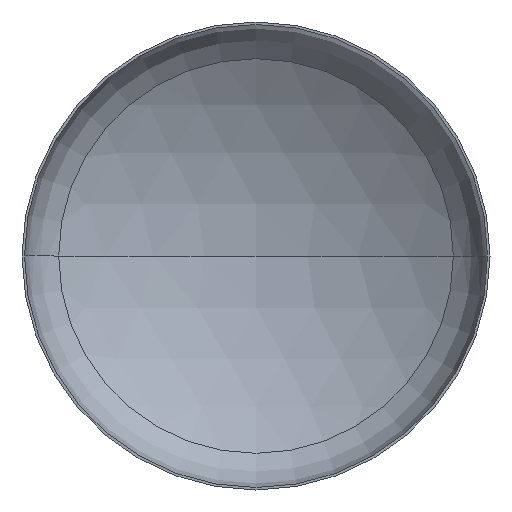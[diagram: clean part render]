
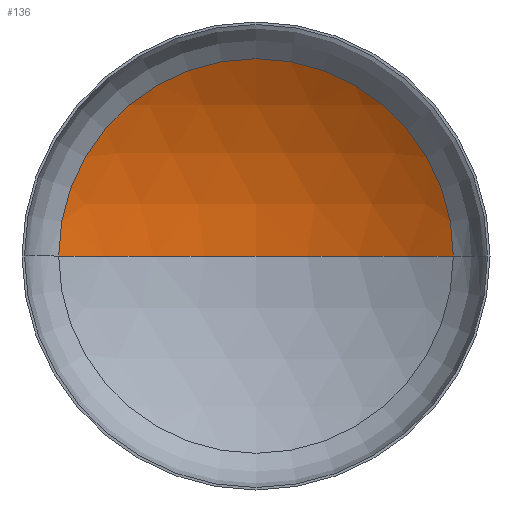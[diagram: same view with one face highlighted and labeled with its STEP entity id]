
A CAD part, front view. The second image highlights one B-rep face of the part: STEP entity #136.
In plain terms, the highlighted spherical face has radius 3600 mm.
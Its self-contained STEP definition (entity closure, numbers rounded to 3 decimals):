
#9 = ORIENTED_EDGE ( 'NONE', *, *, #362, .T. ) ;
#20 = AXIS2_PLACEMENT_3D ( 'NONE', #50, #46, #40 ) ;
#31 = AXIS2_PLACEMENT_3D ( 'NONE', #292, #106, #63 ) ;
#40 = DIRECTION ( 'NONE',  ( -1., 0., 0. ) ) ;
#46 = DIRECTION ( 'NONE',  ( 0., 0., -1. ) ) ;
#50 = CARTESIAN_POINT ( 'NONE',  ( 0., -2393.818, 0. ) ) ;
#52 = EDGE_LOOP ( 'NONE', ( #92, #9, #87 ) ) ;
#63 = DIRECTION ( 'NONE',  ( 1., 0., 0. ) ) ;
#71 = AXIS2_PLACEMENT_3D ( 'NONE', #303, #296, #218 ) ;
#83 = DIRECTION ( 'NONE',  ( 0., 0., 1. ) ) ;
#86 = CIRCLE ( 'NONE', #31, 1897.281 ) ;
#87 = ORIENTED_EDGE ( 'NONE', *, *, #357, .T. ) ;
#92 = ORIENTED_EDGE ( 'NONE', *, *, #399, .F. ) ;
#103 = DIRECTION ( 'NONE',  ( 1., 0., 0. ) ) ;
#106 = DIRECTION ( 'NONE',  ( 0., -1., 0. ) ) ;
#136 = ADVANCED_FACE ( 'NONE', ( #411 ), #366, .F. ) ;
#164 = VERTEX_POINT ( 'NONE', #240 ) ;
#165 = VERTEX_POINT ( 'NONE', #236 ) ;
#192 = CARTESIAN_POINT ( 'NONE',  ( 0., -2393.818, 0. ) ) ;
#197 = VERTEX_POINT ( 'NONE', #209 ) ;
#209 = CARTESIAN_POINT ( 'NONE',  ( 1897.281, 665.647, 0. ) ) ;
#218 = DIRECTION ( 'NONE',  ( -1., 0., 0. ) ) ;
#236 = CARTESIAN_POINT ( 'NONE',  ( 0., 1206.182, 0. ) ) ;
#240 = CARTESIAN_POINT ( 'NONE',  ( -1897.281, 665.647, 0. ) ) ;
#292 = CARTESIAN_POINT ( 'NONE',  ( 0., 665.647, 0. ) ) ;
#296 = DIRECTION ( 'NONE',  ( 0., 0., -1. ) ) ;
#297 = AXIS2_PLACEMENT_3D ( 'NONE', #192, #83, #103 ) ;
#303 = CARTESIAN_POINT ( 'NONE',  ( 0., -2393.818, 0. ) ) ;
#314 = CIRCLE ( 'NONE', #297, 3600. ) ;
#332 = CIRCLE ( 'NONE', #20, 3600. ) ;
#357 = EDGE_CURVE ( 'NONE', #197, #164, #86, .T. ) ;
#362 = EDGE_CURVE ( 'NONE', #165, #197, #332, .T. ) ;
#366 = SPHERICAL_SURFACE ( 'NONE', #71, 3600. ) ;
#399 = EDGE_CURVE ( 'NONE', #165, #164, #314, .T. ) ;
#411 = FACE_OUTER_BOUND ( 'NONE', #52, .T. ) ;
